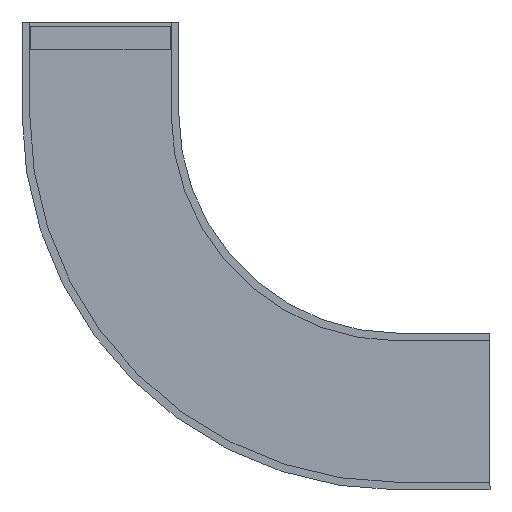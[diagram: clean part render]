
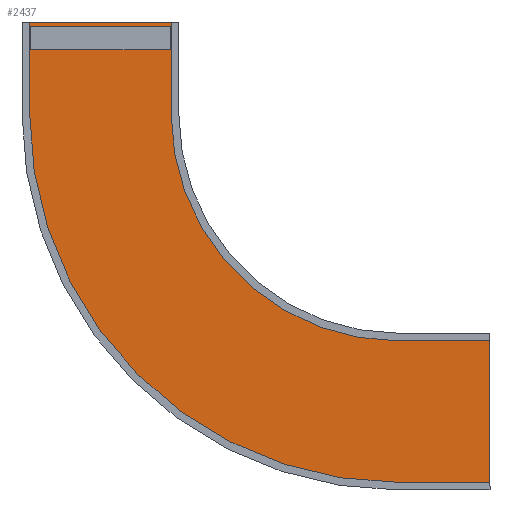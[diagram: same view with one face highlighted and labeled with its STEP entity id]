
A CAD part, front view. The second image highlights one B-rep face of the part: STEP entity #2437.
In plain terms, the highlighted planar face has unit normal (0, -1, 0).
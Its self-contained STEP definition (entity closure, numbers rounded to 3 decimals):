
#4 = LINE ( 'NONE', #1851, #5 ) ;
#5 = VECTOR ( 'NONE', #1852, 1000. ) ;
#16 = LINE ( 'NONE', #1863, #17 ) ;
#17 = VECTOR ( 'NONE', #1864, 1000. ) ;
#182 = CARTESIAN_POINT ( 'NONE',  ( 850., -57.525, -1018.5 ) ) ;
#606 = LINE ( 'NONE', #1317, #607 ) ;
#607 = VECTOR ( 'NONE', #1318, 1000. ) ;
#608 = LINE ( 'NONE', #1319, #609 ) ;
#609 = VECTOR ( 'NONE', #1320, 1000. ) ;
#610 = LINE ( 'NONE', #1321, #611 ) ;
#611 = VECTOR ( 'NONE', #1322, 1000. ) ;
#612 = LINE ( 'NONE', #1323, #613 ) ;
#613 = VECTOR ( 'NONE', #1324, 1000. ) ;
#1317 = CARTESIAN_POINT ( 'NONE',  ( 168.5, -57.525, -200. ) ) ;
#1318 = DIRECTION ( 'NONE',  ( 0., 0., 1. ) ) ;
#1319 = CARTESIAN_POINT ( 'NONE',  ( 168.5, -57.525, 0. ) ) ;
#1320 = DIRECTION ( 'NONE',  ( 1., 0., 0. ) ) ;
#1321 = CARTESIAN_POINT ( 'NONE',  ( -168.5, -57.525, -200. ) ) ;
#1322 = DIRECTION ( 'NONE',  ( 0., 0., 1. ) ) ;
#1323 = CARTESIAN_POINT ( 'NONE',  ( 850., -57.525, -681.5 ) ) ;
#1324 = DIRECTION ( 'NONE',  ( 0., 0., 1. ) ) ;
#1626 = CIRCLE ( 'NONE', #2265, 481.5 ) ;
#1632 = CIRCLE ( 'NONE', #2268, 818.5 ) ;
#1851 = CARTESIAN_POINT ( 'NONE',  ( 650., -57.525, -1018.5 ) ) ;
#1852 = DIRECTION ( 'NONE',  ( 1., 0., 0. ) ) ;
#1863 = CARTESIAN_POINT ( 'NONE',  ( 650., -57.525, -681.5 ) ) ;
#1864 = DIRECTION ( 'NONE',  ( 1., 0., 0. ) ) ;
#2061 = CARTESIAN_POINT ( 'NONE',  ( 650., -57.525, -200. ) ) ;
#2062 = DIRECTION ( 'NONE',  ( 0., -1., 0. ) ) ;
#2063 = DIRECTION ( 'NONE',  ( 0., 0., -1. ) ) ;
#2072 = CARTESIAN_POINT ( 'NONE',  ( 650., -57.525, -200. ) ) ;
#2073 = DIRECTION ( 'NONE',  ( 0., -1., 0. ) ) ;
#2074 = DIRECTION ( 'NONE',  ( 0., 0., -1. ) ) ;
#2265 = AXIS2_PLACEMENT_3D ( 'NONE', #2061, #2062, #2063 ) ;
#2268 = AXIS2_PLACEMENT_3D ( 'NONE', #2072, #2073, #2074 ) ;
#2437 = ADVANCED_FACE ( 'NONE', ( #6086 ), #2828, .T. ) ;
#2559 = VERTEX_POINT ( 'NONE', #5259 ) ;
#2676 = VERTEX_POINT ( 'NONE', #4614 ) ;
#2689 = VERTEX_POINT ( 'NONE', #4627 ) ;
#2828 = PLANE ( 'NONE',  #4482 ) ;
#2829 = CARTESIAN_POINT ( 'NONE',  ( 168.5, -57.525, -200. ) ) ;
#2830 = DIRECTION ( 'NONE',  ( 0., -1., 0. ) ) ;
#2831 = DIRECTION ( 'NONE',  ( 1., 0., 0. ) ) ;
#3091 = VERTEX_POINT ( 'NONE', #4720 ) ;
#3133 = VERTEX_POINT ( 'NONE', #4762 ) ;
#3185 = VERTEX_POINT ( 'NONE', #4814 ) ;
#3213 = VERTEX_POINT ( 'NONE', #4842 ) ;
#3450 = EDGE_LOOP ( 'NONE', ( #5023, #5024, #3528, #3529, #3530, #3531, #3532, #3533 ) ) ;
#3528 = ORIENTED_EDGE ( 'NONE', *, *, #4041, .T. ) ;
#3529 = ORIENTED_EDGE ( 'NONE', *, *, #3936, .T. ) ;
#3530 = ORIENTED_EDGE ( 'NONE', *, *, #4190, .T. ) ;
#3531 = ORIENTED_EDGE ( 'NONE', *, *, #3942, .F. ) ;
#3532 = ORIENTED_EDGE ( 'NONE', *, *, #4037, .F. ) ;
#3533 = ORIENTED_EDGE ( 'NONE', *, *, #4187, .T. ) ;
#3936 = EDGE_CURVE ( 'NONE', #2689, #4888, #4, .T. ) ;
#3942 = EDGE_CURVE ( 'NONE', #3133, #3091, #16, .T. ) ;
#4037 = EDGE_CURVE ( 'NONE', #2559, #3133, #1626, .T. ) ;
#4041 = EDGE_CURVE ( 'NONE', #2676, #2689, #1632, .T. ) ;
#4187 = EDGE_CURVE ( 'NONE', #2559, #3185, #606, .T. ) ;
#4188 = EDGE_CURVE ( 'NONE', #3213, #3185, #608, .T. ) ;
#4189 = EDGE_CURVE ( 'NONE', #2676, #3213, #610, .T. ) ;
#4190 = EDGE_CURVE ( 'NONE', #4888, #3091, #612, .T. ) ;
#4482 = AXIS2_PLACEMENT_3D ( 'NONE', #2829, #2830, #2831 ) ;
#4614 = CARTESIAN_POINT ( 'NONE',  ( -168.5, -57.525, -200. ) ) ;
#4627 = CARTESIAN_POINT ( 'NONE',  ( 650., -57.525, -1018.5 ) ) ;
#4720 = CARTESIAN_POINT ( 'NONE',  ( 850., -57.525, -681.5 ) ) ;
#4762 = CARTESIAN_POINT ( 'NONE',  ( 650., -57.525, -681.5 ) ) ;
#4814 = CARTESIAN_POINT ( 'NONE',  ( 168.5, -57.525, 0. ) ) ;
#4842 = CARTESIAN_POINT ( 'NONE',  ( -168.5, -57.525, 0. ) ) ;
#4888 = VERTEX_POINT ( 'NONE', #182 ) ;
#5023 = ORIENTED_EDGE ( 'NONE', *, *, #4188, .F. ) ;
#5024 = ORIENTED_EDGE ( 'NONE', *, *, #4189, .F. ) ;
#5259 = CARTESIAN_POINT ( 'NONE',  ( 168.5, -57.525, -200. ) ) ;
#6086 = FACE_OUTER_BOUND ( 'NONE', #3450, .T. ) ;
